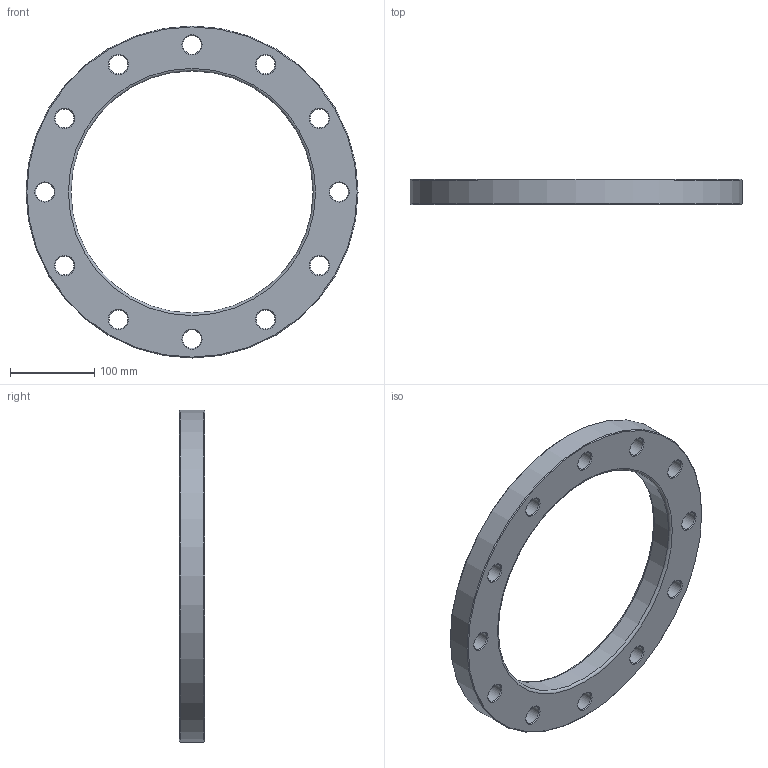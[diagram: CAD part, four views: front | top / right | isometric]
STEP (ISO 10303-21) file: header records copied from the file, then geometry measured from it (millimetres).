
FILE_DESCRIPTION(/* description */ ('Unknown'),/* implementation_level */ '2;1');
FILE_NAME(/* name */ 'FR250B',/* time_stamp */ '2022-07-06T10:12:24+02:00',/* author */ ('Unknown'),/* organization */ ('Unknown'),/* preprocessor_version */ 'ST-DEVELOPER v18.102',/* originating_system */ 'Solid Edge',/* authorisation */ 'Unknown');
FILE_SCHEMA (('AUTOMOTIVE_DESIGN {1 0 10303 214 3 1 1}'));
Length unit declared in the file: millimetre
Products named in the file (1): FR250B
Bounding box: 395 x 30 x 395 mm (x, y, z)
Volume: 1579478.1 mm3; surface area: 190205.9 mm2
Topology: 1 solids, 1 shells, 44 faces, 134 edges, 92 vertices
Faces by surface type: cone 26, cylinder 14, plane 2, torus 2
Full cylindrical faces by diameter (mm): 22 x12, 288 x1, 395 x1
Entity records: 1086 total; most frequent: DIRECTION 202, CARTESIAN_POINT 157, ORIENTED_EDGE 112, EDGE_LOOP 112, FACE_BOUND 112, AXIS2_PLACEMENT_3D 101, EDGE_CURVE 56, VERTEX_POINT 56
